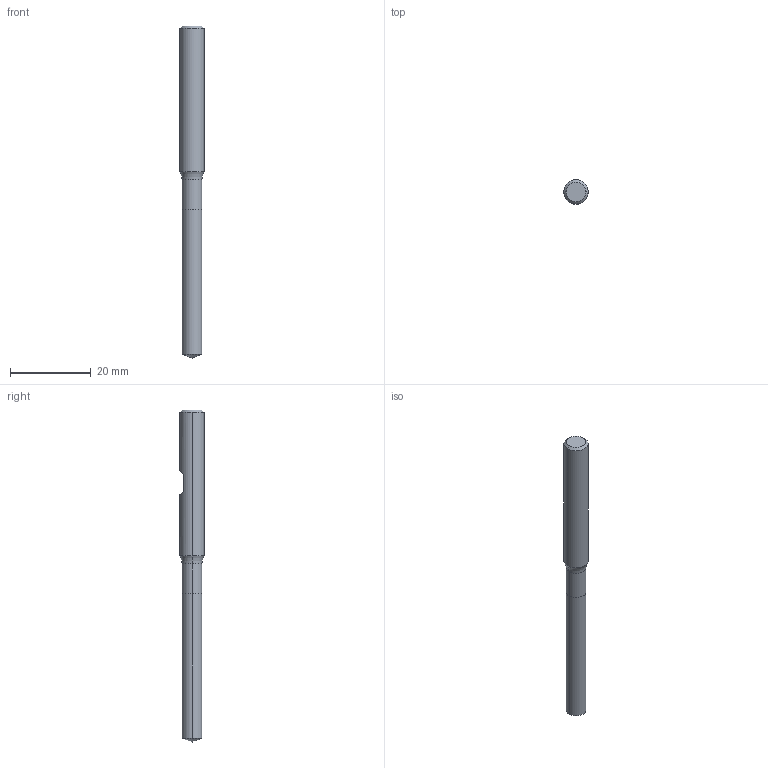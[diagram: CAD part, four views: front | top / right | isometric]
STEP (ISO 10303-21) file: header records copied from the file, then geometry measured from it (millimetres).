
FILE_DESCRIPTION (( 'STEP AP214' ), '1' );
FILE_NAME ('905.049.10_3D-model.step', '2022-02-24T18:17:19', ( '' ), ( '' ), 'SwSTEP 2.0', 'SolidWorks 2020', '' );
FILE_SCHEMA (( 'AUTOMOTIVE_DESIGN' ));
Length unit declared in the file: millimetre
Products named in the file (3): CUT-3D^Baugr152; NOCUT-3D^Baugr152; 905.049.10_3D-model
Assembly tree (2 placements, depth 2):
  905.049.10_3D-model
    CUT-3D^Baugr152
    NOCUT-3D^Baugr152
Bounding box: 6 x 6 x 82 mm (x, y, z)
Volume: 1863.5 mm3; surface area: 1455.6 mm2
Topology: 2 solids, 2 shells, 20 faces, 38 edges, 21 vertices
Faces by surface type: cone 6, cylinder 6, plane 6, torus 2
Entity records: 608 total; most frequent: DIRECTION 108, CARTESIAN_POINT 91, ORIENTED_EDGE 72, AXIS2_PLACEMENT_3D 46, EDGE_CURVE 36, VERTEX_POINT 21, EDGE_LOOP 21, ADVANCED_FACE 20
